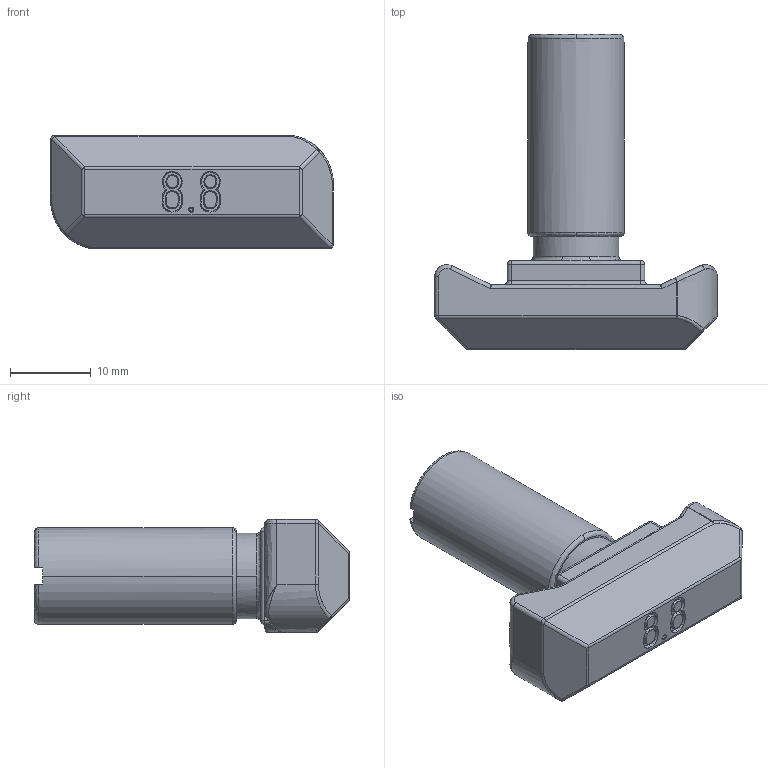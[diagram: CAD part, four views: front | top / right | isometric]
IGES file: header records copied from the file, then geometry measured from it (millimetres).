
Start section: 3D InterOp IGES (Version 26 1 0), Spatial Corp. Copyright (c) 1999-2007.
Global section: file name: TPH1230.igs; native system: Spatial Corp.; preprocessor: 3D InterOp GENERIC/IGES 3.0; author: Noname; organization: Noname; date: 20181022.154050; units: millimetre
Bounding box: 35 x 39 x 14 mm (x, y, z)
Surface area: 2791.3 mm2 (no closed solid volume)
Topology: 0 solids, 0 shells, 184 faces, 960 edges, 946 vertices
Faces by surface type: bspline 86, revolution 66, extrusion 32
